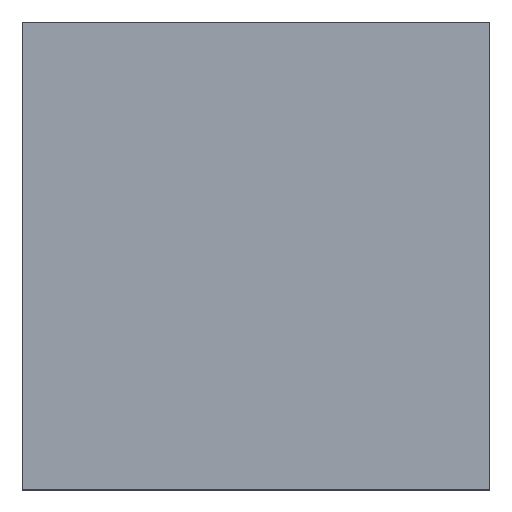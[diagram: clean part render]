
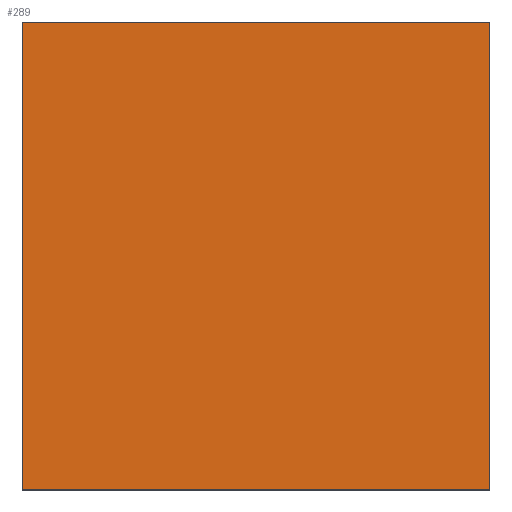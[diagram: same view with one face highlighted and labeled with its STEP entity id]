
A CAD part, top view. The second image highlights one B-rep face of the part: STEP entity #289.
In plain terms, the highlighted planar face has unit normal (0, 0, 1).
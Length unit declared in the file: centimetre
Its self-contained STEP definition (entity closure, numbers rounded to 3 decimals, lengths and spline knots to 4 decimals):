
#13 = CARTESIAN_POINT ( 'NONE',  ( 0., 0., 1000. ) ) ;
#19 = LINE ( 'NONE', #248, #415 ) ;
#29 = CARTESIAN_POINT ( 'NONE',  ( 0., 0., 1000. ) ) ;
#33 = DIRECTION ( 'NONE',  ( 1., 0., 0. ) ) ;
#36 = DIRECTION ( 'NONE',  ( 0., 0., 1. ) ) ;
#40 = VERTEX_POINT ( 'NONE', #497 ) ;
#107 = EDGE_LOOP ( 'NONE', ( #317, #547, #142, #282 ) ) ;
#115 = CARTESIAN_POINT ( 'NONE',  ( 1000., 0., 1000. ) ) ;
#125 = PLANE ( 'NONE',  #534 ) ;
#142 = ORIENTED_EDGE ( 'NONE', *, *, #467, .T. ) ;
#161 = EDGE_CURVE ( 'NONE', #40, #437, #291, .T. ) ;
#162 = FACE_OUTER_BOUND ( 'NONE', #107, .T. ) ;
#166 = VERTEX_POINT ( 'NONE', #460 ) ;
#221 = DIRECTION ( 'NONE',  ( 0., -1., 0. ) ) ;
#245 = LINE ( 'NONE', #13, #318 ) ;
#247 = CARTESIAN_POINT ( 'NONE',  ( 0., 1000., 1000. ) ) ;
#248 = CARTESIAN_POINT ( 'NONE',  ( 1000., 1000., 1000. ) ) ;
#254 = VECTOR ( 'NONE', #370, 100. ) ;
#260 = EDGE_CURVE ( 'NONE', #437, #166, #265, .T. ) ;
#265 = LINE ( 'NONE', #348, #455 ) ;
#282 = ORIENTED_EDGE ( 'NONE', *, *, #161, .T. ) ;
#289 = ADVANCED_FACE ( 'NONE', ( #162 ), #125, .T. ) ;
#291 = LINE ( 'NONE', #247, #254 ) ;
#317 = ORIENTED_EDGE ( 'NONE', *, *, #260, .T. ) ;
#318 = VECTOR ( 'NONE', #337, 100. ) ;
#337 = DIRECTION ( 'NONE',  ( 1., 0., 0. ) ) ;
#348 = CARTESIAN_POINT ( 'NONE',  ( 0., 1000., 1000. ) ) ;
#370 = DIRECTION ( 'NONE',  ( -1., 0., 0. ) ) ;
#415 = VECTOR ( 'NONE', #419, 100. ) ;
#419 = DIRECTION ( 'NONE',  ( 0., 1., 0. ) ) ;
#437 = VERTEX_POINT ( 'NONE', #461 ) ;
#451 = EDGE_CURVE ( 'NONE', #166, #463, #245, .T. ) ;
#455 = VECTOR ( 'NONE', #221, 100. ) ;
#460 = CARTESIAN_POINT ( 'NONE',  ( 0., 0., 1000. ) ) ;
#461 = CARTESIAN_POINT ( 'NONE',  ( 0., 1000., 1000. ) ) ;
#463 = VERTEX_POINT ( 'NONE', #115 ) ;
#467 = EDGE_CURVE ( 'NONE', #463, #40, #19, .T. ) ;
#497 = CARTESIAN_POINT ( 'NONE',  ( 1000., 1000., 1000. ) ) ;
#534 = AXIS2_PLACEMENT_3D ( 'NONE', #29, #36, #33 ) ;
#547 = ORIENTED_EDGE ( 'NONE', *, *, #451, .T. ) ;
